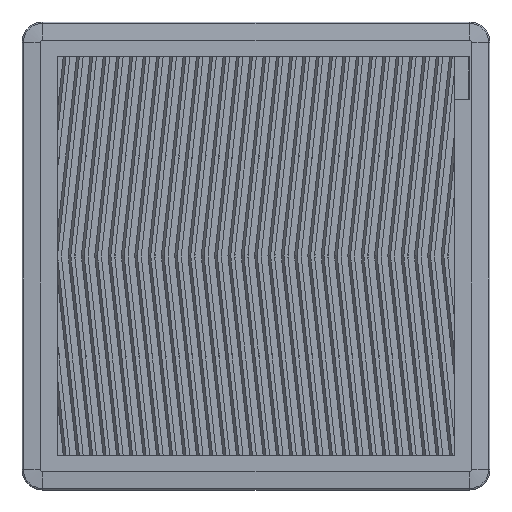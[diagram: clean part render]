
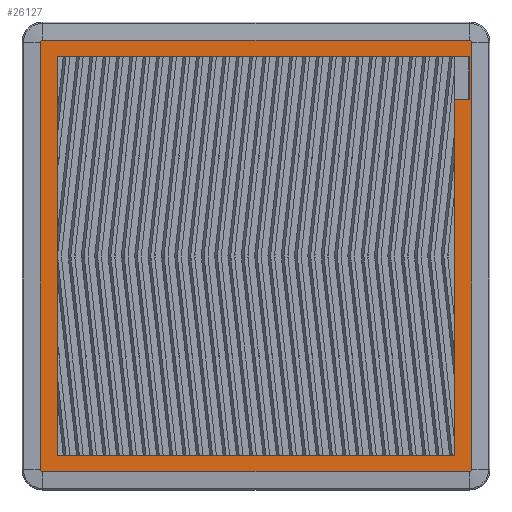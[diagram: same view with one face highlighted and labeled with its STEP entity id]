
A CAD part, top view. The second image highlights one B-rep face of the part: STEP entity #26127.
In plain terms, the highlighted planar face has unit normal (0, 0, 1).
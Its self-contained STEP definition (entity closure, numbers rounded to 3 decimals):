
#434 = EDGE_CURVE ( 'NONE', #21887, #25783, #11529, .T. ) ;
#1117 = CARTESIAN_POINT ( 'NONE',  ( -149.794, -148., 3. ) ) ;
#1235 = VECTOR ( 'NONE', #41834, 1000. ) ;
#1287 = VERTEX_POINT ( 'NONE', #11463 ) ;
#1469 = EDGE_CURVE ( 'NONE', #8255, #8880, #9008, .T. ) ;
#1595 = CARTESIAN_POINT ( 'NONE',  ( 138.5, -138.5, 3. ) ) ;
#1774 = CARTESIAN_POINT ( 'NONE',  ( 108.5, -148., 3. ) ) ;
#2238 = DIRECTION ( 'NONE',  ( 0., -1., 0. ) ) ;
#2433 = VECTOR ( 'NONE', #12034, 1000. ) ;
#4325 = CARTESIAN_POINT ( 'NONE',  ( -148., -149.794, 3. ) ) ;
#4527 = LINE ( 'NONE', #8497, #2433 ) ;
#4780 = DIRECTION ( 'NONE',  ( 0., 0., 1. ) ) ;
#5164 = DIRECTION ( 'NONE',  ( 0., 1., 0. ) ) ;
#5191 = EDGE_CURVE ( 'NONE', #22910, #19822, #10023, .T. ) ;
#5722 = DIRECTION ( 'NONE',  ( -1., 0., 0. ) ) ;
#5906 = DIRECTION ( 'NONE',  ( -1., 0., 0. ) ) ;
#6133 = AXIS2_PLACEMENT_3D ( 'NONE', #19535, #18675, #35692 ) ;
#6927 = EDGE_CURVE ( 'NONE', #12677, #8255, #28450, .T. ) ;
#7066 = DIRECTION ( 'NONE',  ( 0., 1., 0. ) ) ;
#7653 = CARTESIAN_POINT ( 'NONE',  ( 0., 0., 3. ) ) ;
#7738 = CARTESIAN_POINT ( 'NONE',  ( 148., -149.794, 3. ) ) ;
#7878 = FACE_OUTER_BOUND ( 'NONE', #22886, .T. ) ;
#7957 = DIRECTION ( 'NONE',  ( 1., 0., 0. ) ) ;
#8255 = VERTEX_POINT ( 'NONE', #29197 ) ;
#8497 = CARTESIAN_POINT ( 'NONE',  ( 149.794, 0., 3. ) ) ;
#8880 = VERTEX_POINT ( 'NONE', #32014 ) ;
#9008 = LINE ( 'NONE', #13222, #39505 ) ;
#9129 = EDGE_CURVE ( 'NONE', #25350, #12677, #4527, .T. ) ;
#9729 = CARTESIAN_POINT ( 'NONE',  ( -148., -148., 3. ) ) ;
#9932 = VERTEX_POINT ( 'NONE', #1117 ) ;
#10023 = LINE ( 'NONE', #40113, #32627 ) ;
#10973 = FACE_BOUND ( 'NONE', #31937, .T. ) ;
#11426 = ORIENTED_EDGE ( 'NONE', *, *, #33823, .F. ) ;
#11463 = CARTESIAN_POINT ( 'NONE',  ( -138.5, 138., 3. ) ) ;
#11529 = LINE ( 'NONE', #1595, #1235 ) ;
#11619 = DIRECTION ( 'NONE',  ( 1., 0., 0. ) ) ;
#12034 = DIRECTION ( 'NONE',  ( 0., 1., 0. ) ) ;
#12677 = VERTEX_POINT ( 'NONE', #18627 ) ;
#12931 = EDGE_CURVE ( 'NONE', #9932, #22910, #22289, .T. ) ;
#13040 = EDGE_CURVE ( 'NONE', #14908, #14242, #27860, .T. ) ;
#13222 = CARTESIAN_POINT ( 'NONE',  ( 0., 149.794, 3. ) ) ;
#13539 = CARTESIAN_POINT ( 'NONE',  ( -149.794, 0., 3. ) ) ;
#14193 = DIRECTION ( 'NONE',  ( 0., -1., 0. ) ) ;
#14242 = VERTEX_POINT ( 'NONE', #27701 ) ;
#14283 = LINE ( 'NONE', #41258, #27224 ) ;
#14908 = VERTEX_POINT ( 'NONE', #41034 ) ;
#15763 = CARTESIAN_POINT ( 'NONE',  ( -148., 148., 3. ) ) ;
#17703 = EDGE_CURVE ( 'NONE', #29319, #9932, #23699, .T. ) ;
#17939 = CARTESIAN_POINT ( 'NONE',  ( 138.5, -148., 3. ) ) ;
#18627 = CARTESIAN_POINT ( 'NONE',  ( 149.794, 148., 3. ) ) ;
#18675 = DIRECTION ( 'NONE',  ( 0., 0., 1. ) ) ;
#18758 = AXIS2_PLACEMENT_3D ( 'NONE', #9729, #43562, #7066 ) ;
#19237 = ORIENTED_EDGE ( 'NONE', *, *, #13040, .T. ) ;
#19535 = CARTESIAN_POINT ( 'NONE',  ( 148., -148., 3. ) ) ;
#19822 = VERTEX_POINT ( 'NONE', #7738 ) ;
#20652 = DIRECTION ( 'NONE',  ( 0., 0., 1. ) ) ;
#20712 = ORIENTED_EDGE ( 'NONE', *, *, #21671, .F. ) ;
#20953 = ORIENTED_EDGE ( 'NONE', *, *, #29220, .T. ) ;
#21625 = ORIENTED_EDGE ( 'NONE', *, *, #12931, .T. ) ;
#21671 = EDGE_CURVE ( 'NONE', #31167, #21887, #14283, .T. ) ;
#21887 = VERTEX_POINT ( 'NONE', #17939 ) ;
#22289 = CIRCLE ( 'NONE', #18758, 1.794 ) ;
#22399 = CIRCLE ( 'NONE', #6133, 1.794 ) ;
#22693 = CIRCLE ( 'NONE', #28351, 1.794 ) ;
#22886 = EDGE_LOOP ( 'NONE', ( #42800, #39868, #38709, #35109, #20953, #30284, #21625, #35634 ) ) ;
#22910 = VERTEX_POINT ( 'NONE', #4325 ) ;
#23699 = LINE ( 'NONE', #13539, #26779 ) ;
#23726 = VECTOR ( 'NONE', #2238, 1000. ) ;
#24659 = AXIS2_PLACEMENT_3D ( 'NONE', #7653, #4780, #11619 ) ;
#24703 = PLANE ( 'NONE',  #24659 ) ;
#24772 = CARTESIAN_POINT ( 'NONE',  ( 0., -138., 3. ) ) ;
#25251 = CARTESIAN_POINT ( 'NONE',  ( 108.5, -138., 3. ) ) ;
#25350 = VERTEX_POINT ( 'NONE', #32101 ) ;
#25677 = LINE ( 'NONE', #39157, #42379 ) ;
#25783 = VERTEX_POINT ( 'NONE', #34057 ) ;
#26127 = ADVANCED_FACE ( 'NONE', ( #10973, #7878 ), #24703, .T. ) ;
#26575 = ORIENTED_EDGE ( 'NONE', *, *, #39699, .T. ) ;
#26694 = ORIENTED_EDGE ( 'NONE', *, *, #27408, .T. ) ;
#26779 = VECTOR ( 'NONE', #14193, 1000. ) ;
#27224 = VECTOR ( 'NONE', #37939, 1000. ) ;
#27263 = VECTOR ( 'NONE', #5164, 1000. ) ;
#27408 = EDGE_CURVE ( 'NONE', #1287, #25783, #25677, .T. ) ;
#27701 = CARTESIAN_POINT ( 'NONE',  ( -138.5, -138., 3. ) ) ;
#27860 = LINE ( 'NONE', #24772, #41353 ) ;
#28351 = AXIS2_PLACEMENT_3D ( 'NONE', #15763, #29247, #32357 ) ;
#28450 = CIRCLE ( 'NONE', #34824, 1.794 ) ;
#29197 = CARTESIAN_POINT ( 'NONE',  ( 148., 149.794, 3. ) ) ;
#29220 = EDGE_CURVE ( 'NONE', #8880, #29319, #22693, .T. ) ;
#29247 = DIRECTION ( 'NONE',  ( 0., 0., 1. ) ) ;
#29319 = VERTEX_POINT ( 'NONE', #41299 ) ;
#30284 = ORIENTED_EDGE ( 'NONE', *, *, #17703, .T. ) ;
#31167 = VERTEX_POINT ( 'NONE', #1774 ) ;
#31614 = DIRECTION ( 'NONE',  ( -1., 0., 0. ) ) ;
#31937 = EDGE_LOOP ( 'NONE', ( #11426, #19237, #26575, #26694, #35182, #20712 ) ) ;
#32014 = CARTESIAN_POINT ( 'NONE',  ( -148., 149.794, 3. ) ) ;
#32098 = DIRECTION ( 'NONE',  ( 1., 0., 0. ) ) ;
#32101 = CARTESIAN_POINT ( 'NONE',  ( 149.794, -148., 3. ) ) ;
#32357 = DIRECTION ( 'NONE',  ( -1., 0., 0. ) ) ;
#32627 = VECTOR ( 'NONE', #7957, 1000. ) ;
#33823 = EDGE_CURVE ( 'NONE', #14908, #31167, #35428, .T. ) ;
#34057 = CARTESIAN_POINT ( 'NONE',  ( 138.5, 138., 3. ) ) ;
#34595 = EDGE_CURVE ( 'NONE', #19822, #25350, #22399, .T. ) ;
#34824 = AXIS2_PLACEMENT_3D ( 'NONE', #36205, #20652, #5906 ) ;
#35109 = ORIENTED_EDGE ( 'NONE', *, *, #1469, .T. ) ;
#35182 = ORIENTED_EDGE ( 'NONE', *, *, #434, .F. ) ;
#35428 = LINE ( 'NONE', #25251, #23726 ) ;
#35634 = ORIENTED_EDGE ( 'NONE', *, *, #5191, .T. ) ;
#35692 = DIRECTION ( 'NONE',  ( 0., 1., 0. ) ) ;
#35896 = LINE ( 'NONE', #36322, #27263 ) ;
#36205 = CARTESIAN_POINT ( 'NONE',  ( 148., 148., 3. ) ) ;
#36322 = CARTESIAN_POINT ( 'NONE',  ( -138.5, 0., 3. ) ) ;
#37939 = DIRECTION ( 'NONE',  ( 1., 0., 0. ) ) ;
#38709 = ORIENTED_EDGE ( 'NONE', *, *, #6927, .T. ) ;
#39157 = CARTESIAN_POINT ( 'NONE',  ( -138.5, 138., 3. ) ) ;
#39505 = VECTOR ( 'NONE', #5722, 1000. ) ;
#39699 = EDGE_CURVE ( 'NONE', #14242, #1287, #35896, .T. ) ;
#39868 = ORIENTED_EDGE ( 'NONE', *, *, #9129, .T. ) ;
#40113 = CARTESIAN_POINT ( 'NONE',  ( 0., -149.794, 3. ) ) ;
#41034 = CARTESIAN_POINT ( 'NONE',  ( 108.5, -138., 3. ) ) ;
#41258 = CARTESIAN_POINT ( 'NONE',  ( 108.5, -148., 3. ) ) ;
#41299 = CARTESIAN_POINT ( 'NONE',  ( -149.794, 148., 3. ) ) ;
#41353 = VECTOR ( 'NONE', #31614, 1000. ) ;
#41834 = DIRECTION ( 'NONE',  ( 0., 1., 0. ) ) ;
#42379 = VECTOR ( 'NONE', #32098, 1000. ) ;
#42800 = ORIENTED_EDGE ( 'NONE', *, *, #34595, .T. ) ;
#43562 = DIRECTION ( 'NONE',  ( 0., 0., 1. ) ) ;
